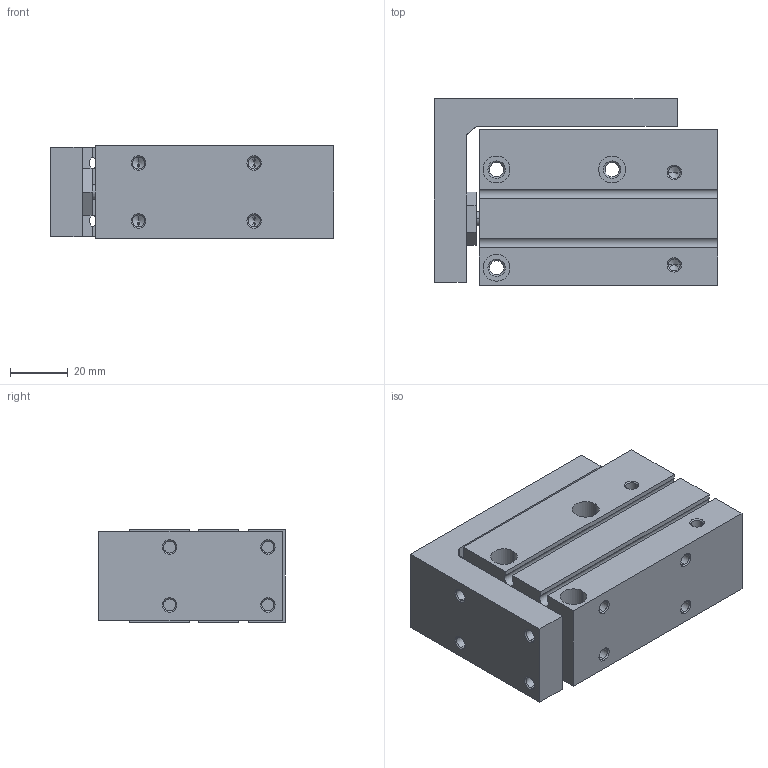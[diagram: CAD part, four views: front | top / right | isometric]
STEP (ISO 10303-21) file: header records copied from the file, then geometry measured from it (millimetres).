
FILE_DESCRIPTION (( 'STEP AP203' ), '1' );
FILE_NAME ('CXH20-30.STEP', '2020-04-16T18:15:47', ( '' ), ( '' ), 'SwSTEP 2.0', 'SolidWorks 2019', '' );
FILE_SCHEMA (( 'CONFIG_CONTROL_DESIGN' ));
Length unit declared in the file: millimetre
Products named in the file (1): CXH20-30
Bounding box: 98 x 64.5 x 32 mm (x, y, z)
Volume: 165383.2 mm3; surface area: 42497.7 mm2
Topology: 2 solids, 2 shells, 210 faces, 499 edges, 288 vertices
Faces by surface type: cone 90, cylinder 76, plane 44
Entity records: 6040 total; most frequent: DIRECTION 1099, CARTESIAN_POINT 1080, ORIENTED_EDGE 942, EDGE_CURVE 471, AXIS2_PLACEMENT_3D 423, VERTEX_POINT 288, EDGE_LOOP 255, VECTOR 253
